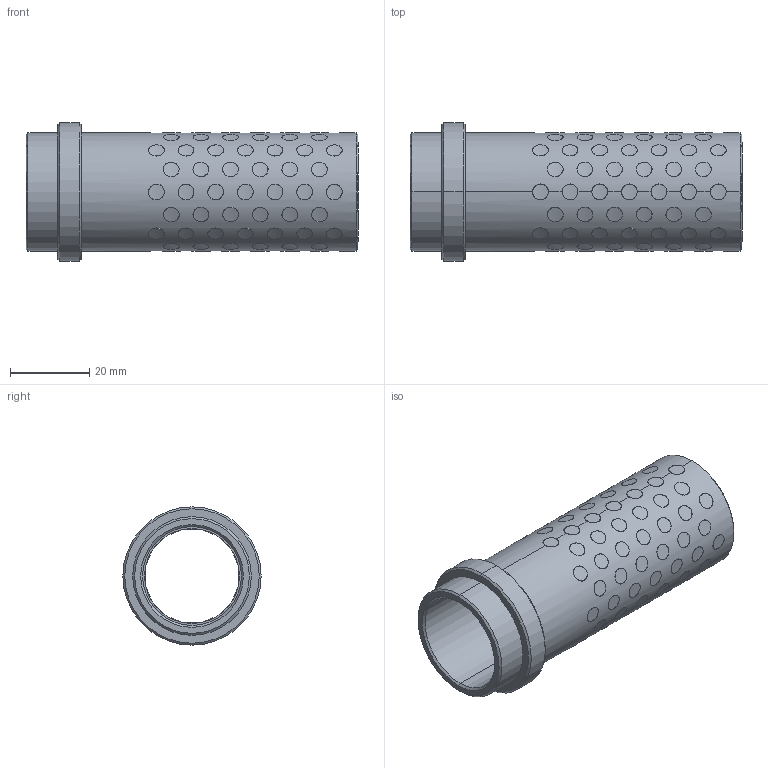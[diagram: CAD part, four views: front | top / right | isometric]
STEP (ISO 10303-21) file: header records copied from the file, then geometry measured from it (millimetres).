
FILE_DESCRIPTION((''),'2;1');
FILE_NAME('G31224076','2017-12-30T',('MANU'),(''),'PRO/ENGINEER BY PARAMETRIC TECHNOLOGY CORPORATION, 2012130','PRO/ENGINEER BY PARAMETRIC TECHNOLOGY CORPORATION, 2012130','');
FILE_SCHEMA(('CONFIG_CONTROL_DESIGN'));
Length unit declared in the file: millimetre
Products named in the file (1): G31224076
Bounding box: 84 x 35 x 35 mm (x, y, z)
Volume: 21622.9 mm3; surface area: 23060.1 mm2
Topology: 105 solids, 105 shells, 651 faces, 1386 edges, 920 vertices
Faces by surface type: cylinder 634, cone 12, plane 5
Entity records: 31132 total; most frequent: CARTESIAN_POINT 18459, ORIENTED_EDGE 2772, DIRECTION 1832, EDGE_CURVE 1386, VERTEX_POINT 920, B_SPLINE_CURVE_WITH_KNOTS 888, EDGE_LOOP 836, AXIS2_PLACEMENT_3D 683
